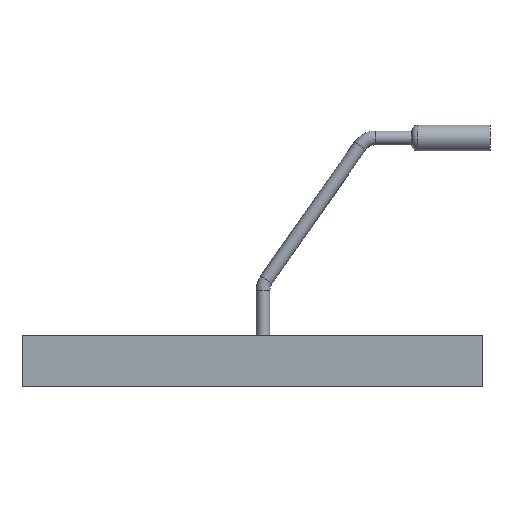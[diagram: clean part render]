
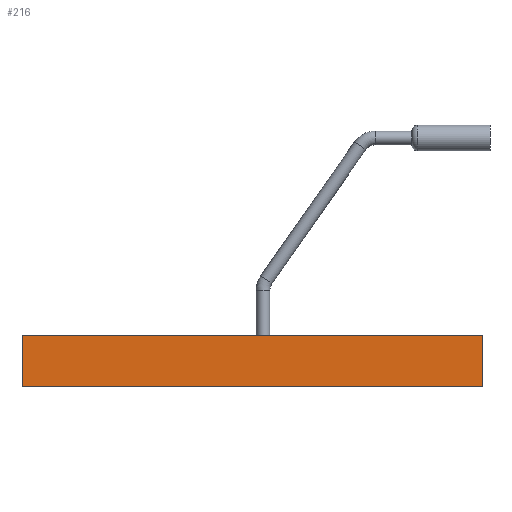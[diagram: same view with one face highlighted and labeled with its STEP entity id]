
A CAD part, top view. The second image highlights one B-rep face of the part: STEP entity #216.
In plain terms, the highlighted planar face has unit normal (0, 0, 1).
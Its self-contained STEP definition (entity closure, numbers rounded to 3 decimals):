
#5 = VECTOR ( 'NONE', #556, 1000. ) ;
#8 = LINE ( 'NONE', #567, #18 ) ;
#16 = LINE ( 'NONE', #569, #17 ) ;
#17 = VECTOR ( 'NONE', #570, 1000. ) ;
#18 = VECTOR ( 'NONE', #572, 1000. ) ;
#97 = EDGE_LOOP ( 'NONE', ( #262, #263, #264, #265 ) ) ;
#155 = FACE_OUTER_BOUND ( 'NONE', #97, .T. ) ;
#160 = LINE ( 'NONE', #553, #5 ) ;
#165 = LINE ( 'NONE', #672, #170 ) ;
#170 = VECTOR ( 'NONE', #673, 1000. ) ;
#216 = ADVANCED_FACE ( 'NONE', ( #155 ), #518, .T. ) ;
#262 = ORIENTED_EDGE ( 'NONE', *, *, #318, .F. ) ;
#263 = ORIENTED_EDGE ( 'NONE', *, *, #416, .F. ) ;
#264 = ORIENTED_EDGE ( 'NONE', *, *, #333, .T. ) ;
#265 = ORIENTED_EDGE ( 'NONE', *, *, #331, .T. ) ;
#318 = EDGE_CURVE ( 'NONE', #420, #423, #160, .T. ) ;
#331 = EDGE_CURVE ( 'NONE', #433, #423, #16, .T. ) ;
#333 = EDGE_CURVE ( 'NONE', #431, #433, #8, .T. ) ;
#413 = AXIS2_PLACEMENT_3D ( 'NONE', #517, #522, #523 ) ;
#416 = EDGE_CURVE ( 'NONE', #431, #420, #165, .T. ) ;
#420 = VERTEX_POINT ( 'NONE', #674 ) ;
#423 = VERTEX_POINT ( 'NONE', #678 ) ;
#431 = VERTEX_POINT ( 'NONE', #681 ) ;
#433 = VERTEX_POINT ( 'NONE', #682 ) ;
#517 = CARTESIAN_POINT ( 'NONE',  ( -139.853, -30., 5.25 ) ) ;
#518 = PLANE ( 'NONE',  #413 ) ;
#522 = DIRECTION ( 'NONE',  ( 0., 0., 1. ) ) ;
#523 = DIRECTION ( 'NONE',  ( 0., -1., 0. ) ) ;
#553 = CARTESIAN_POINT ( 'NONE',  ( 127.247, -30., 5.25 ) ) ;
#556 = DIRECTION ( 'NONE',  ( 0., -1., 0. ) ) ;
#567 = CARTESIAN_POINT ( 'NONE',  ( -139.853, -30., 5.25 ) ) ;
#569 = CARTESIAN_POINT ( 'NONE',  ( -139.853, -30., 5.25 ) ) ;
#570 = DIRECTION ( 'NONE',  ( 1., 0., 0. ) ) ;
#572 = DIRECTION ( 'NONE',  ( 0., -1., 0. ) ) ;
#672 = CARTESIAN_POINT ( 'NONE',  ( -139.853, 0., 5.25 ) ) ;
#673 = DIRECTION ( 'NONE',  ( 1., 0., 0. ) ) ;
#674 = CARTESIAN_POINT ( 'NONE',  ( 127.247, 0., 5.25 ) ) ;
#678 = CARTESIAN_POINT ( 'NONE',  ( 127.247, -30., 5.25 ) ) ;
#681 = CARTESIAN_POINT ( 'NONE',  ( -139.853, 0., 5.25 ) ) ;
#682 = CARTESIAN_POINT ( 'NONE',  ( -139.853, -30., 5.25 ) ) ;
